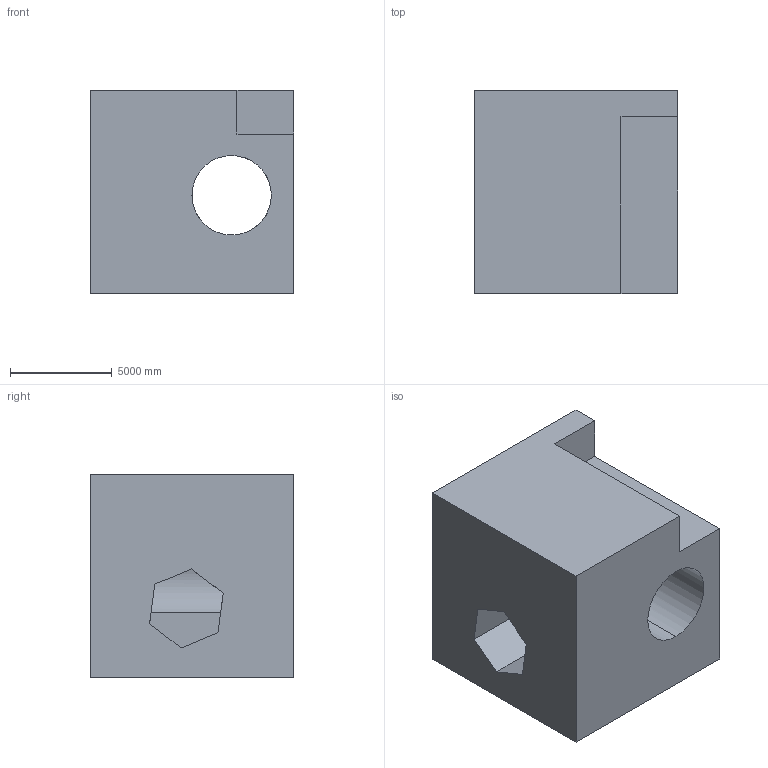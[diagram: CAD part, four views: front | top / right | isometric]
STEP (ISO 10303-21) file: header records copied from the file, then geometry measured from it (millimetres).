
FILE_DESCRIPTION (( 'STEP AP203' ), '1' );
FILE_NAME ('1370.STEP', '2022-08-18T14:05:31', ( 'user' ), ( '' ), 'SwSTEP 2.0', 'SolidWorks 2021', '' );
FILE_SCHEMA (( 'CONFIG_CONTROL_DESIGN' ));
Length unit declared in the file: centimetre
Products named in the file (1): 1370
Bounding box: 10000 x 10000 x 10000 mm (x, y, z)
Volume: 763561260100.7 mm3; surface area: 746983536.2 mm2
Topology: 1 solids, 1 shells, 20 faces, 57 edges, 38 vertices
Faces by surface type: plane 17, cylinder 3
Entity records: 776 total; most frequent: CARTESIAN_POINT 173, ORIENTED_EDGE 114, DIRECTION 101, EDGE_CURVE 57, VECTOR 45, LINE 45, VERTEX_POINT 38, AXIS2_PLACEMENT_3D 28
